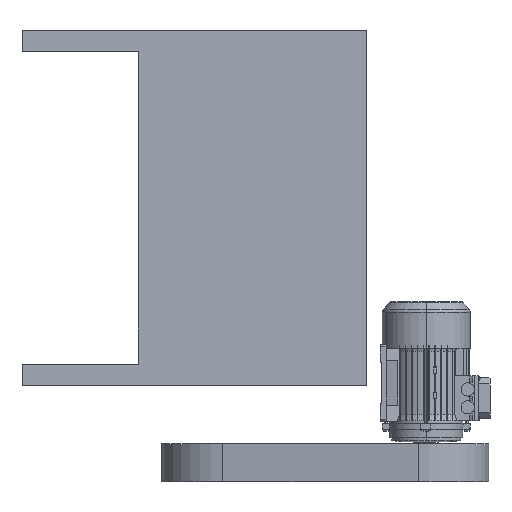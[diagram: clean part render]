
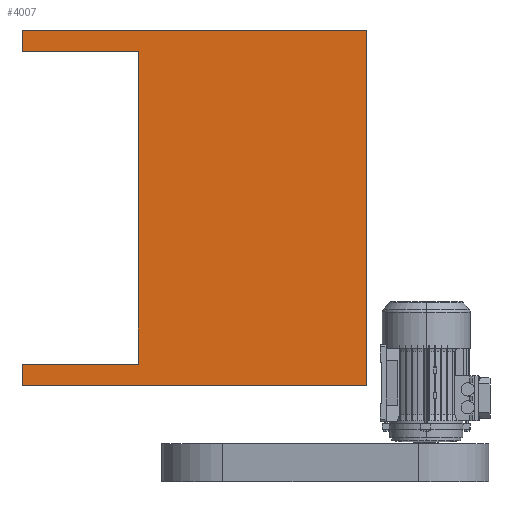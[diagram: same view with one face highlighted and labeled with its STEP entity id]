
A CAD part, front view. The second image highlights one B-rep face of the part: STEP entity #4007.
In plain terms, the highlighted planar face has unit normal (0, -1, 0).
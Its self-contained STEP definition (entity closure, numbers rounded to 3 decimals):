
#610 = VECTOR ( 'NONE', #1984, 1000. ) ;
#1623 = LINE ( 'NONE', #24226, #610 ) ;
#1756 = LINE ( 'NONE', #23281, #8224 ) ;
#1984 = DIRECTION ( 'NONE',  ( 0., 0., -1. ) ) ;
#2619 = VERTEX_POINT ( 'NONE', #10012 ) ;
#3186 = AXIS2_PLACEMENT_3D ( 'NONE', #26062, #25716, #25703 ) ;
#3871 = EDGE_LOOP ( 'NONE', ( #30351, #35967, #16763, #8058, #35278, #23687, #39125, #17213 ) ) ;
#3983 = EDGE_CURVE ( 'NONE', #18793, #9703, #24967, .T. ) ;
#4007 = ADVANCED_FACE ( 'NONE', ( #31028 ), #26145, .F. ) ;
#4489 = DIRECTION ( 'NONE',  ( -1., 0., 0. ) ) ;
#5032 = VERTEX_POINT ( 'NONE', #33751 ) ;
#6171 = CARTESIAN_POINT ( 'NONE',  ( 374.485, -176.895, 386. ) ) ;
#6920 = EDGE_CURVE ( 'NONE', #5032, #38912, #18817, .T. ) ;
#7144 = VERTEX_POINT ( 'NONE', #6171 ) ;
#7339 = CARTESIAN_POINT ( 'NONE',  ( -375.515, -176.895, 386. ) ) ;
#7344 = LINE ( 'NONE', #23380, #39108 ) ;
#7461 = EDGE_CURVE ( 'NONE', #20341, #18793, #29765, .T. ) ;
#8058 = ORIENTED_EDGE ( 'NONE', *, *, #3983, .T. ) ;
#8224 = VECTOR ( 'NONE', #38252, 1000. ) ;
#8724 = DIRECTION ( 'NONE',  ( -1., 0., 0. ) ) ;
#9548 = EDGE_CURVE ( 'NONE', #2619, #9703, #38033, .T. ) ;
#9703 = VERTEX_POINT ( 'NONE', #31101 ) ;
#10012 = CARTESIAN_POINT ( 'NONE',  ( 374.485, -176.895, -386. ) ) ;
#10300 = VECTOR ( 'NONE', #11610, 1000. ) ;
#10338 = EDGE_CURVE ( 'NONE', #7144, #2619, #1623, .T. ) ;
#11610 = DIRECTION ( 'NONE',  ( 1., 0., 0. ) ) ;
#11738 = CARTESIAN_POINT ( 'NONE',  ( -375.515, -176.895, 340. ) ) ;
#12146 = VECTOR ( 'NONE', #4489, 1000. ) ;
#12582 = CARTESIAN_POINT ( 'NONE',  ( -122.515, -176.895, 340. ) ) ;
#13272 = EDGE_CURVE ( 'NONE', #7144, #23732, #13794, .T. ) ;
#13739 = DIRECTION ( 'NONE',  ( 0., 0., -1. ) ) ;
#13794 = LINE ( 'NONE', #7339, #30379 ) ;
#15237 = CARTESIAN_POINT ( 'NONE',  ( -122.515, -176.895, -340. ) ) ;
#16544 = VECTOR ( 'NONE', #26523, 1000. ) ;
#16763 = ORIENTED_EDGE ( 'NONE', *, *, #7461, .T. ) ;
#17213 = ORIENTED_EDGE ( 'NONE', *, *, #22619, .T. ) ;
#18793 = VERTEX_POINT ( 'NONE', #29883 ) ;
#18817 = LINE ( 'NONE', #11738, #10300 ) ;
#20341 = VERTEX_POINT ( 'NONE', #15237 ) ;
#22619 = EDGE_CURVE ( 'NONE', #23732, #5032, #1756, .T. ) ;
#23281 = CARTESIAN_POINT ( 'NONE',  ( -375.515, -176.895, 343. ) ) ;
#23380 = CARTESIAN_POINT ( 'NONE',  ( -122.515, -176.895, -340. ) ) ;
#23687 = ORIENTED_EDGE ( 'NONE', *, *, #10338, .F. ) ;
#23732 = VERTEX_POINT ( 'NONE', #36770 ) ;
#24226 = CARTESIAN_POINT ( 'NONE',  ( 374.485, -176.895, 343. ) ) ;
#24967 = LINE ( 'NONE', #26497, #16544 ) ;
#25703 = DIRECTION ( 'NONE',  ( 0., 0., 1. ) ) ;
#25716 = DIRECTION ( 'NONE',  ( 0., 1., 0. ) ) ;
#26062 = CARTESIAN_POINT ( 'NONE',  ( 0., -176.895, 343. ) ) ;
#26145 = PLANE ( 'NONE',  #3186 ) ;
#26307 = DIRECTION ( 'NONE',  ( -1., 0., 0. ) ) ;
#26477 = EDGE_CURVE ( 'NONE', #38912, #20341, #7344, .T. ) ;
#26497 = CARTESIAN_POINT ( 'NONE',  ( -375.515, -176.895, 343. ) ) ;
#26523 = DIRECTION ( 'NONE',  ( 0., 0., -1. ) ) ;
#26645 = CARTESIAN_POINT ( 'NONE',  ( -375.515, -176.895, -340. ) ) ;
#28349 = VECTOR ( 'NONE', #8724, 1000. ) ;
#29765 = LINE ( 'NONE', #26645, #12146 ) ;
#29883 = CARTESIAN_POINT ( 'NONE',  ( -375.515, -176.895, -340. ) ) ;
#30351 = ORIENTED_EDGE ( 'NONE', *, *, #6920, .T. ) ;
#30379 = VECTOR ( 'NONE', #26307, 1000. ) ;
#31028 = FACE_OUTER_BOUND ( 'NONE', #3871, .T. ) ;
#31101 = CARTESIAN_POINT ( 'NONE',  ( -375.515, -176.895, -386. ) ) ;
#33751 = CARTESIAN_POINT ( 'NONE',  ( -375.515, -176.895, 340. ) ) ;
#35278 = ORIENTED_EDGE ( 'NONE', *, *, #9548, .F. ) ;
#35967 = ORIENTED_EDGE ( 'NONE', *, *, #26477, .T. ) ;
#36393 = CARTESIAN_POINT ( 'NONE',  ( -375.515, -176.895, -386. ) ) ;
#36770 = CARTESIAN_POINT ( 'NONE',  ( -375.515, -176.895, 386. ) ) ;
#38033 = LINE ( 'NONE', #36393, #28349 ) ;
#38252 = DIRECTION ( 'NONE',  ( 0., 0., -1. ) ) ;
#38912 = VERTEX_POINT ( 'NONE', #12582 ) ;
#39108 = VECTOR ( 'NONE', #13739, 1000. ) ;
#39125 = ORIENTED_EDGE ( 'NONE', *, *, #13272, .T. ) ;
